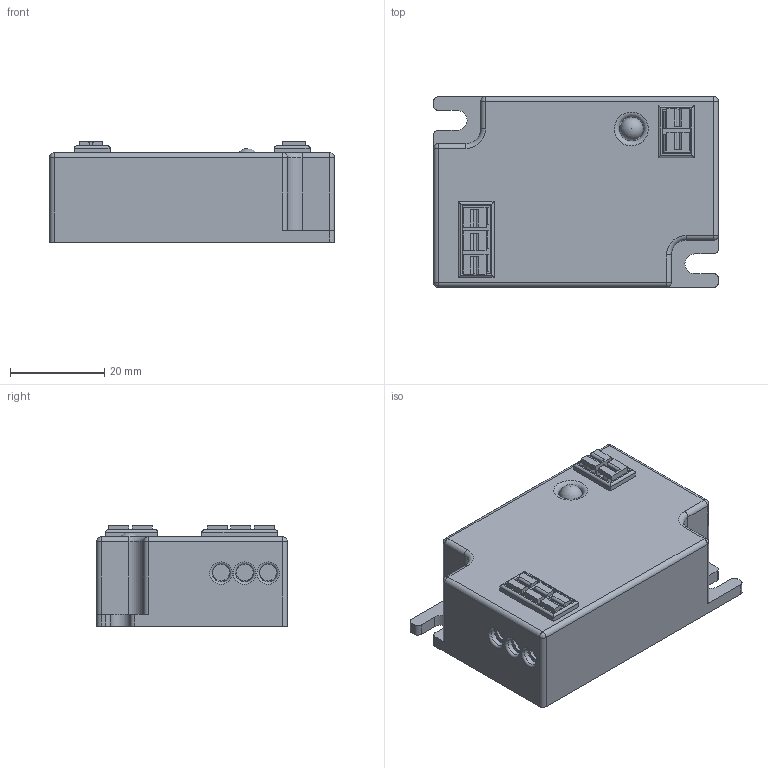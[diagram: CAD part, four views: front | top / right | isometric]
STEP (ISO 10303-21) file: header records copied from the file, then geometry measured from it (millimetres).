
FILE_DESCRIPTION(/* description */ (''),/* implementation_level */ '2;1');
FILE_NAME(/* name */ 'C:\Users\310079203\Desktop\work\project\Y2024\ODM Projects\Qiyu lighting projects\P0045847_10KV SPD cost down weekly meeting_Brook\TPD\10KV TPD\3D\10KV-SPD.stp',/* time_stamp */ '2024-08-14T12:34:00+08:00',/* author */ ('310079203'),/* organization */ (''),/* preprocessor_version */ 'ST-DEVELOPER v18.1',/* originating_system */ 'Autodesk Inventor 2022',/* authorisation */ '');
FILE_SCHEMA (('AUTOMOTIVE_DESIGN { 1 0 10303 214 3 1 1 }'));
Length unit declared in the file: inch
Products named in the file (1): 10KV-SPD-0731_Simplify_2
Bounding box: 60.5 x 40.5 x 21.36 mm (x, y, z)
Volume: 35407.1 mm3; surface area: 20205.9 mm2
Topology: 2 solids, 2 shells, 655 faces, 1814 edges, 1176 vertices
Faces by surface type: plane 497, cylinder 114, cone 28, sphere 8, torus 8
Full cylindrical faces by diameter (mm): 3.8 x5, 4.95 x1, 5.2 x1
Entity records: 21515 total; most frequent: CARTESIAN_POINT 3743, ORIENTED_EDGE 3614, DIRECTION 3374, EDGE_CURVE 1807, LINE 1482, VECTOR 1482, VERTEX_POINT 1176, AXIS2_PLACEMENT_3D 946
